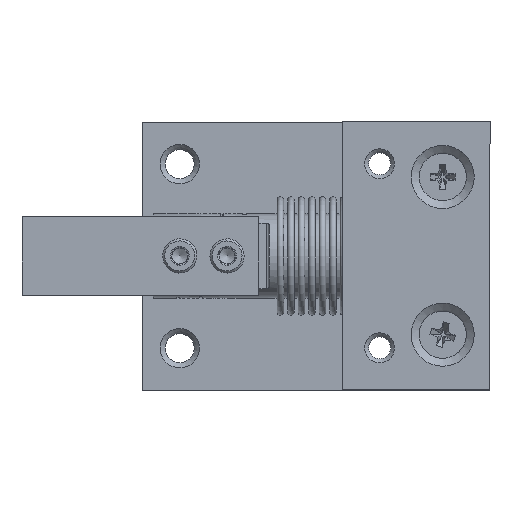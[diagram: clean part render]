
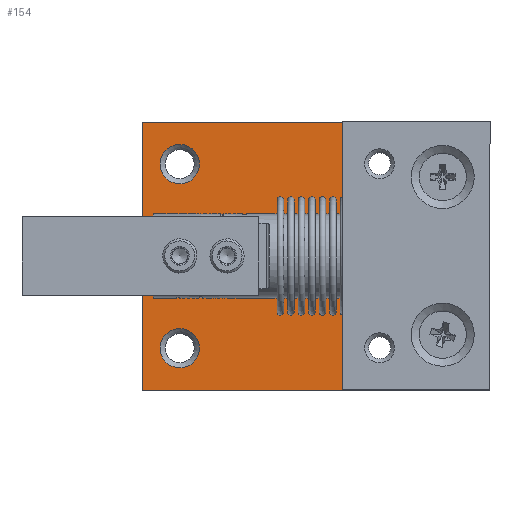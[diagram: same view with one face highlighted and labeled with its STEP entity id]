
A CAD part, top view. The second image highlights one B-rep face of the part: STEP entity #154.
In plain terms, the highlighted planar face has unit normal (0, 0, 1).
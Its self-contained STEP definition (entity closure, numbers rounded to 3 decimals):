
#154=ADVANCED_FACE('',(#1371,#1373,#1375,#1377,#1379,#1381,#1383,#1385),#1387,.T.);
#1371=FACE_BOUND('',#1372,.T.);
#1372=EDGE_LOOP('',(#18463,#18464,#18465,#18466));
#1373=FACE_BOUND('',#1374,.T.);
#1374=EDGE_LOOP('',(#18467,#18468,#18469,#18470,#18471,#18472));
#1375=FACE_BOUND('',#1376,.T.);
#1376=EDGE_LOOP('',(#18473,#18474,#18475,#18476));
#1377=FACE_BOUND('',#1378,.T.);
#1378=EDGE_LOOP('',(#18477));
#1379=FACE_BOUND('',#1380,.T.);
#1380=EDGE_LOOP('',(#18478));
#1381=FACE_BOUND('',#1382,.T.);
#1382=EDGE_LOOP('',(#18479));
#1383=FACE_BOUND('',#1384,.T.);
#1384=EDGE_LOOP('',(#18480));
#1385=FACE_BOUND('',#1386,.T.);
#1386=EDGE_LOOP('',(#18481,#18482,#18483,#18484,#18485,#18486));
#1387=PLANE('',#1388);
#1388=AXIS2_PLACEMENT_3D('',#1389,#1390,#1391);
#1389=CARTESIAN_POINT('',(0.,0.,6.5));
#1390=DIRECTION('',(0.,0.,1.));
#1391=DIRECTION('',(1.,0.,0.));
#18463=ORIENTED_EDGE('',*,*,#21383,.T.);
#18464=ORIENTED_EDGE('',*,*,#21384,.T.);
#18465=ORIENTED_EDGE('',*,*,#21385,.T.);
#18466=ORIENTED_EDGE('',*,*,#21386,.T.);
#18467=ORIENTED_EDGE('',*,*,#21387,.F.);
#18468=ORIENTED_EDGE('',*,*,#21388,.F.);
#18469=ORIENTED_EDGE('',*,*,#21389,.F.);
#18470=ORIENTED_EDGE('',*,*,#21390,.F.);
#18471=ORIENTED_EDGE('',*,*,#21391,.F.);
#18472=ORIENTED_EDGE('',*,*,#21392,.F.);
#18473=ORIENTED_EDGE('',*,*,#21382,.F.);
#18474=ORIENTED_EDGE('',*,*,#21380,.F.);
#18475=ORIENTED_EDGE('',*,*,#21378,.F.);
#18476=ORIENTED_EDGE('',*,*,#21172,.F.);
#18477=ORIENTED_EDGE('',*,*,#21393,.T.);
#18478=ORIENTED_EDGE('',*,*,#21394,.T.);
#18479=ORIENTED_EDGE('',*,*,#21395,.T.);
#18480=ORIENTED_EDGE('',*,*,#21396,.T.);
#18481=ORIENTED_EDGE('',*,*,#21397,.F.);
#18482=ORIENTED_EDGE('',*,*,#21398,.F.);
#18483=ORIENTED_EDGE('',*,*,#21399,.F.);
#18484=ORIENTED_EDGE('',*,*,#21400,.F.);
#18485=ORIENTED_EDGE('',*,*,#21401,.F.);
#18486=ORIENTED_EDGE('',*,*,#21402,.F.);
#21172=EDGE_CURVE('',#22842,#22844,#22845,.T.);
#21378=EDGE_CURVE('',#22844,#23186,#23187,.T.);
#21380=EDGE_CURVE('',#23186,#23189,#23190,.T.);
#21382=EDGE_CURVE('',#23189,#22842,#23192,.T.);
#21383=EDGE_CURVE('',#23193,#23194,#23195,.T.);
#21384=EDGE_CURVE('',#23194,#23196,#23197,.T.);
#21385=EDGE_CURVE('',#23196,#23198,#23199,.T.);
#21386=EDGE_CURVE('',#23198,#23193,#23200,.T.);
#21387=EDGE_CURVE('',#23201,#23202,#23203,.T.);
#21388=EDGE_CURVE('',#23204,#23201,#23205,.T.);
#21389=EDGE_CURVE('',#23206,#23204,#23207,.T.);
#21390=EDGE_CURVE('',#23208,#23206,#23209,.T.);
#21391=EDGE_CURVE('',#23210,#23208,#23211,.T.);
#21392=EDGE_CURVE('',#23202,#23210,#23212,.T.);
#21393=EDGE_CURVE('',#23213,#23213,#23214,.F.);
#21394=EDGE_CURVE('',#23215,#23215,#23216,.F.);
#21395=EDGE_CURVE('',#23217,#23217,#23218,.F.);
#21396=EDGE_CURVE('',#23219,#23219,#23220,.F.);
#21397=EDGE_CURVE('',#23221,#23222,#23223,.T.);
#21398=EDGE_CURVE('',#23224,#23221,#23225,.T.);
#21399=EDGE_CURVE('',#23226,#23224,#23227,.T.);
#21400=EDGE_CURVE('',#23228,#23226,#23229,.T.);
#21401=EDGE_CURVE('',#23230,#23228,#23231,.T.);
#21402=EDGE_CURVE('',#23222,#23230,#23232,.T.);
#22842=VERTEX_POINT('',#28955);
#22844=VERTEX_POINT('',#28959);
#22845=LINE('',#28960,#28961);
#23186=VERTEX_POINT('',#31977);
#23187=LINE('',#31978,#31979);
#23189=VERTEX_POINT('',#31984);
#23190=LINE('',#31985,#31986);
#23192=LINE('',#31991,#31992);
#23193=VERTEX_POINT('',#31994);
#23194=VERTEX_POINT('',#31995);
#23195=LINE('',#31996,#31997);
#23196=VERTEX_POINT('',#31999);
#23197=LINE('',#32000,#32001);
#23198=VERTEX_POINT('',#32003);
#23199=LINE('',#32004,#32005);
#23200=LINE('',#32007,#32008);
#23201=VERTEX_POINT('',#32010);
#23202=VERTEX_POINT('',#32011);
#23203=LINE('',#32012,#32013);
#23204=VERTEX_POINT('',#32015);
#23205=LINE('',#32016,#32017);
#23206=VERTEX_POINT('',#32019);
#23207=LINE('',#32020,#32021);
#23208=VERTEX_POINT('',#32023);
#23209=LINE('',#32024,#32025);
#23210=VERTEX_POINT('',#32027);
#23211=LINE('',#32028,#32029);
#23212=LINE('',#32031,#32032);
#23213=VERTEX_POINT('',#32034);
#23214=CIRCLE('',#32035,7.5);
#23215=VERTEX_POINT('',#32039);
#23216=CIRCLE('',#32040,7.5);
#23217=VERTEX_POINT('',#32044);
#23218=CIRCLE('',#32045,7.5);
#23219=VERTEX_POINT('',#32049);
#23220=CIRCLE('',#32050,7.5);
#23221=VERTEX_POINT('',#32054);
#23222=VERTEX_POINT('',#32055);
#23223=LINE('',#32056,#32057);
#23224=VERTEX_POINT('',#32059);
#23225=LINE('',#32060,#32061);
#23226=VERTEX_POINT('',#32063);
#23227=LINE('',#32064,#32065);
#23228=VERTEX_POINT('',#32067);
#23229=LINE('',#32068,#32069);
#23230=VERTEX_POINT('',#32071);
#23231=LINE('',#32072,#32073);
#23232=LINE('',#32075,#32076);
#28955=CARTESIAN_POINT('',(-19.5,-15.,6.5));
#28959=CARTESIAN_POINT('',(-19.5,15.,6.5));
#28960=CARTESIAN_POINT('',(-19.5,-15.,6.5));
#28961=VECTOR('',#28962,1.);
#28962=DIRECTION('',(0.,1.,0.));
#31977=CARTESIAN_POINT('',(-62.5,15.,6.5));
#31978=CARTESIAN_POINT('',(-19.5,15.,6.5));
#31979=VECTOR('',#31980,1.);
#31980=DIRECTION('',(-1.,0.,0.));
#31984=CARTESIAN_POINT('',(-62.5,-15.,6.5));
#31985=CARTESIAN_POINT('',(-62.5,15.,6.5));
#31986=VECTOR('',#31987,1.);
#31987=DIRECTION('',(0.,-1.,0.));
#31991=CARTESIAN_POINT('',(-62.5,-15.,6.5));
#31992=VECTOR('',#31993,1.);
#31993=DIRECTION('',(1.,0.,0.));
#31994=CARTESIAN_POINT('',(66.,51.,6.5));
#31995=CARTESIAN_POINT('',(-66.,51.,6.5));
#31996=CARTESIAN_POINT('',(66.,51.,6.5));
#31997=VECTOR('',#31998,1.);
#31998=DIRECTION('',(-1.,0.,0.));
#31999=CARTESIAN_POINT('',(-66.,-51.,6.5));
#32000=CARTESIAN_POINT('',(-66.,51.,6.5));
#32001=VECTOR('',#32002,1.);
#32002=DIRECTION('',(0.,-1.,0.));
#32003=CARTESIAN_POINT('',(66.,-51.,6.5));
#32004=CARTESIAN_POINT('',(-66.,-51.,6.5));
#32005=VECTOR('',#32006,1.);
#32006=DIRECTION('',(1.,0.,0.));
#32007=CARTESIAN_POINT('',(66.,-51.,6.5));
#32008=VECTOR('',#32009,1.);
#32009=DIRECTION('',(0.,1.,0.));
#32010=CARTESIAN_POINT('',(53.485,-39.5,6.5));
#32011=CARTESIAN_POINT('',(58.97,-30.,6.5));
#32012=CARTESIAN_POINT('',(53.485,-39.5,6.5));
#32013=VECTOR('',#32014,1.);
#32014=DIRECTION('',(0.5,0.866,0.));
#32015=CARTESIAN_POINT('',(42.515,-39.5,6.5));
#32016=CARTESIAN_POINT('',(42.515,-39.5,6.5));
#32017=VECTOR('',#32018,1.);
#32018=DIRECTION('',(1.,0.,0.));
#32019=CARTESIAN_POINT('',(37.03,-30.,6.5));
#32020=CARTESIAN_POINT('',(37.03,-30.,6.5));
#32021=VECTOR('',#32022,1.);
#32022=DIRECTION('',(0.5,-0.866,0.));
#32023=CARTESIAN_POINT('',(42.515,-20.5,6.5));
#32024=CARTESIAN_POINT('',(42.515,-20.5,6.5));
#32025=VECTOR('',#32026,1.);
#32026=DIRECTION('',(-0.5,-0.866,0.));
#32027=CARTESIAN_POINT('',(53.485,-20.5,6.5));
#32028=CARTESIAN_POINT('',(53.485,-20.5,6.5));
#32029=VECTOR('',#32030,1.);
#32030=DIRECTION('',(-1.,0.,0.));
#32031=CARTESIAN_POINT('',(58.97,-30.,6.5));
#32032=VECTOR('',#32033,1.);
#32033=DIRECTION('',(-0.5,0.866,0.));
#32034=CARTESIAN_POINT('',(-52.,27.5,6.5));
#32035=AXIS2_PLACEMENT_3D('',#32036,#32037,#32038);
#32036=CARTESIAN_POINT('',(-52.,35.,6.5));
#32037=DIRECTION('',(0.,0.,1.));
#32038=DIRECTION('',(0.,-1.,0.));
#32039=CARTESIAN_POINT('',(24.,27.5,6.5));
#32040=AXIS2_PLACEMENT_3D('',#32041,#32042,#32043);
#32041=CARTESIAN_POINT('',(24.,35.,6.5));
#32042=DIRECTION('',(0.,0.,1.));
#32043=DIRECTION('',(0.,-1.,0.));
#32044=CARTESIAN_POINT('',(24.,-42.5,6.5));
#32045=AXIS2_PLACEMENT_3D('',#32046,#32047,#32048);
#32046=CARTESIAN_POINT('',(24.,-35.,6.5));
#32047=DIRECTION('',(0.,0.,1.));
#32048=DIRECTION('',(0.,-1.,0.));
#32049=CARTESIAN_POINT('',(-52.,-42.5,6.5));
#32050=AXIS2_PLACEMENT_3D('',#32051,#32052,#32053);
#32051=CARTESIAN_POINT('',(-52.,-35.,6.5));
#32052=DIRECTION('',(0.,0.,1.));
#32053=DIRECTION('',(0.,-1.,0.));
#32054=CARTESIAN_POINT('',(53.485,20.5,6.5));
#32055=CARTESIAN_POINT('',(58.97,30.,6.5));
#32056=CARTESIAN_POINT('',(53.485,20.5,6.5));
#32057=VECTOR('',#32058,1.);
#32058=DIRECTION('',(0.5,0.866,0.));
#32059=CARTESIAN_POINT('',(42.515,20.5,6.5));
#32060=CARTESIAN_POINT('',(42.515,20.5,6.5));
#32061=VECTOR('',#32062,1.);
#32062=DIRECTION('',(1.,0.,0.));
#32063=CARTESIAN_POINT('',(37.03,30.,6.5));
#32064=CARTESIAN_POINT('',(37.03,30.,6.5));
#32065=VECTOR('',#32066,1.);
#32066=DIRECTION('',(0.5,-0.866,0.));
#32067=CARTESIAN_POINT('',(42.515,39.5,6.5));
#32068=CARTESIAN_POINT('',(42.515,39.5,6.5));
#32069=VECTOR('',#32070,1.);
#32070=DIRECTION('',(-0.5,-0.866,0.));
#32071=CARTESIAN_POINT('',(53.485,39.5,6.5));
#32072=CARTESIAN_POINT('',(53.485,39.5,6.5));
#32073=VECTOR('',#32074,1.);
#32074=DIRECTION('',(-1.,0.,0.));
#32075=CARTESIAN_POINT('',(58.97,30.,6.5));
#32076=VECTOR('',#32077,1.);
#32077=DIRECTION('',(-0.5,0.866,0.));
